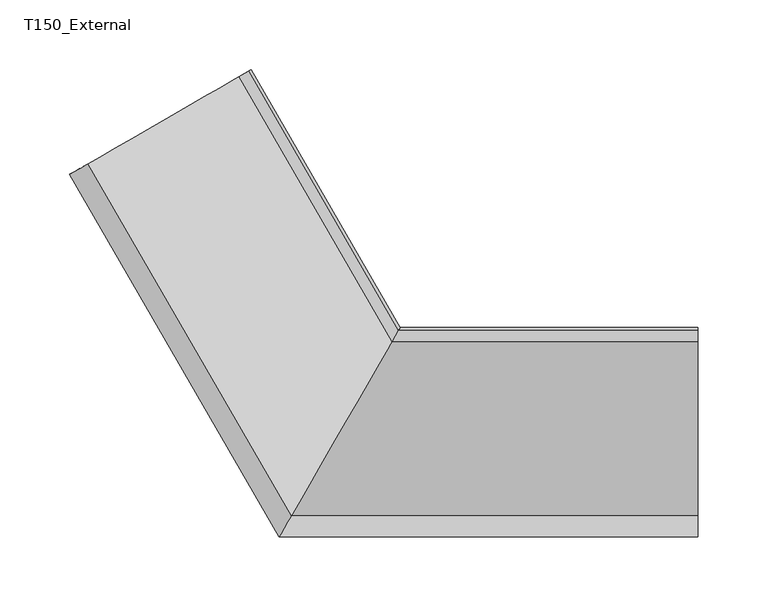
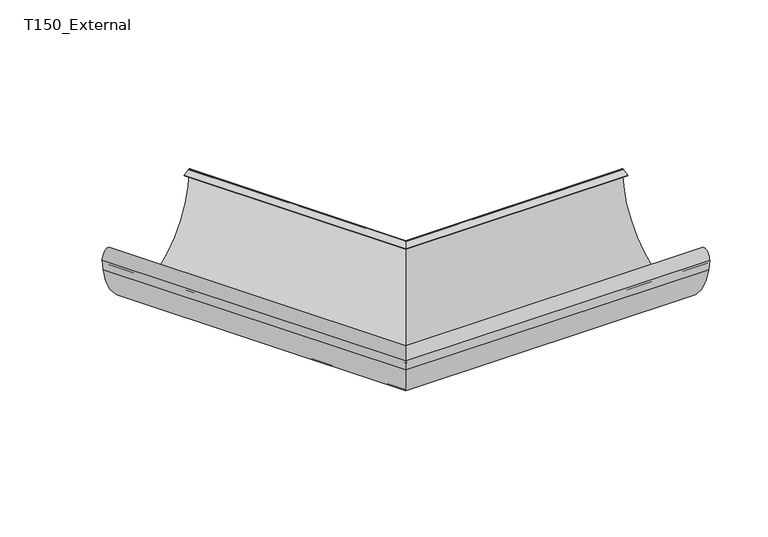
"""IFC4 building model written with IfcOpenShell, lengths in millimetres: proxy geometry, GROVIK_Gutter_Corner_Custom : T150_External."""

import ifcopenshell
import ifcopenshell.guid

model = None  # the IFC model being written
_history = None  # IfcOwnerHistory: only IFC2X3 demands one
_inside = {}  # id of a spatial element -> (the spatial element, [elements in it])
_under = {}  # id of a project, library or spatial element -> (it, [spatial elements below it])
_declared = {}  # id of a project -> (the project, [libraries it declares])
_typed = {}  # id of a type object -> (the type object, [elements of that type])
_made_of = {}  # id of a material, layer set ... -> (it, [elements and type objects made of it])


def new_model(schema):
    """Start an empty IFC model of exactly this schema.

    Asked for "IFC4X3", IfcOpenShell would pick the latest addendum, in which some entities
    have other attributes; the version numbers below select the first issue.
    IFC2X3 requires an IfcOwnerHistory on every rooted entity: one is made here for all.
    """
    global model, _history
    if schema == "IFC4X3":
        model = ifcopenshell.file(schema_version=(4, 3, 0, 0))
    else:
        model = ifcopenshell.file(schema=schema)
    _inside.clear()
    _under.clear()
    _declared.clear()
    _typed.clear()
    _made_of.clear()
    _history = None
    if model.schema == "IFC2X3":
        org = make("IfcOrganization", Name="unknown")
        user = make(
            "IfcPersonAndOrganization",
            ThePerson=make("IfcPerson", FamilyName="unknown"),
            TheOrganization=org,
        )
        app = make(
            "IfcApplication",
            ApplicationDeveloper=org,
            Version="unknown",
            ApplicationFullName="unknown",
            ApplicationIdentifier="unknown",
        )
        _history = make(
            "IfcOwnerHistory",
            OwningUser=user,
            OwningApplication=app,
            ChangeAction="ADDED",
            CreationDate=0,
        )
    return model


def make(cls, **values):
    """One entity of the class cls with the attributes given. An attribute that is None is left unset."""
    return model.create_entity(
        cls, **{name: value for name, value in values.items() if value is not None}
    )


def rooted(cls, **values):
    """An entity with a GlobalId (a new one), such as an element, a storey or a relation."""
    return make(cls, GlobalId=ifcopenshell.guid.new(), OwnerHistory=_history, **values)


def si_unit(unit_type, name, prefix=None):
    """IfcSIUnit, for example si_unit("LENGTHUNIT", "METRE", prefix="MILLI")."""
    return make("IfcSIUnit", UnitType=unit_type, Prefix=prefix, Name=name)


def assignment(units):
    """IfcUnitAssignment: the units of a project."""
    return None if units is None else make("IfcUnitAssignment", Units=units)


def point(xyz):
    """IfcCartesianPoint."""
    return None if xyz is None else make("IfcCartesianPoint", Coordinates=xyz)


def direction(xyz):
    """IfcDirection."""
    return None if xyz is None else make("IfcDirection", DirectionRatios=xyz)


def frame(location, z_axis=None, x_axis=None):
    """IfcAxis2Placement3D, a coordinate frame: its origin and axes. An axis left out is left unset."""
    return make(
        "IfcAxis2Placement3D",
        Location=point(location),
        Axis=direction(z_axis),
        RefDirection=direction(x_axis),
    )


def origin():
    """The frame at (0, 0, 0) with its axes left unset."""
    return frame((0.0, 0.0, 0.0))


def place(relative_to, where):
    """IfcLocalPlacement: puts the frame where relative to a parent placement (None: the world)."""
    return make(
        "IfcLocalPlacement", PlacementRelTo=relative_to, RelativePlacement=where
    )


def context(
    kind, dimensions, precision=None, world=None, true_north=None, identifier=None
):
    """IfcGeometricRepresentationContext, for example the 3D "Model" context."""
    return make(
        "IfcGeometricRepresentationContext",
        ContextIdentifier=identifier,
        ContextType=kind,
        CoordinateSpaceDimension=dimensions,
        Precision=precision,
        WorldCoordinateSystem=world,
        TrueNorth=true_north,
    )


def project(units=None, contexts=None):
    """IfcProject with its units and contexts."""
    return rooted(
        "IfcProject",
        Name="project",
        RepresentationContexts=contexts,
        UnitsInContext=assignment(units),
    )


def spatial(cls, under=None, at=None, **own):
    """A site, building, storey or space (cls), placed at a placement, below another one or the project."""
    s = rooted(cls, ObjectPlacement=at, **own)
    if under is not None:
        _under.setdefault(under.id(), (under, []))[1].append(s)
    return s


def polyline(points):
    """IfcPolyline through the points."""
    return make("IfcPolyline", Points=[point(p) for p in points])


def circle_curve(where, radius):
    """IfcCircle in the frame where."""
    return make("IfcCircle", Position=where, Radius=radius)


def ellipse_curve(where, semi_axis1, semi_axis2):
    """IfcEllipse in the frame where."""
    return make(
        "IfcEllipse", Position=where, SemiAxis1=semi_axis1, SemiAxis2=semi_axis2
    )


def shape(context_of_items, identifier, shape_type, items):
    """IfcShapeRepresentation: the items that make up one representation, for example the "Body"."""
    return make(
        "IfcShapeRepresentation",
        ContextOfItems=context_of_items,
        RepresentationIdentifier=identifier,
        RepresentationType=shape_type,
        Items=items,
    )


def source(mapping_origin, context_of_items, identifier, shape_type, items):
    """IfcRepresentationMap: a shape defined once, which mapped items show again and again."""
    return make(
        "IfcRepresentationMap",
        MappingOrigin=mapping_origin,
        MappedRepresentation=shape(context_of_items, identifier, shape_type, items),
    )


def transform(
    local_origin,
    x_axis=None,
    y_axis=None,
    z_axis=None,
    scale=None,
    scale2=None,
    scale3=None,
    uniform=True,
):
    """IfcCartesianTransformationOperator3D, or its non-uniform kind. x_axis, y_axis, z_axis: its Axis1, 2, 3."""
    if uniform:
        return make(
            "IfcCartesianTransformationOperator3D",
            Axis1=direction(x_axis),
            Axis2=direction(y_axis),
            LocalOrigin=point(local_origin),
            Scale=scale,
            Axis3=direction(z_axis),
        )
    return make(
        "IfcCartesianTransformationOperator3DnonUniform",
        Axis1=direction(x_axis),
        Axis2=direction(y_axis),
        LocalOrigin=point(local_origin),
        Scale=scale,
        Axis3=direction(z_axis),
        Scale2=scale2,
        Scale3=scale3,
    )


def mapped(mapping_source, mapping_target):
    """IfcMappedItem: shows the shape of a source again, moved by a transform."""
    return make(
        "IfcMappedItem", MappingSource=mapping_source, MappingTarget=mapping_target
    )


def made_of(thing, what):
    """Note that an element or type object is made of a material, layer set ...; save() writes the relation."""
    if what is not None:
        _made_of.setdefault(what.id(), (what, []))[1].append(thing)
    return thing


def element(
    cls,
    number,
    at=None,
    inside=None,
    cuts=None,
    type_object=None,
    material=None,
    context=None,
    identifier="Body",
    shape_type=None,
    held_by="IfcProductDefinitionShape",
    body=None,
    shapes=None,
    **own,
):
    """One element of the class cls, such as IfcWall. Its Tag is "e" and its number.

    at: its placement. inside: the storey or other place that contains it. cuts: it is an
    opening in that element (IfcRelVoidsElement). A single representation is given by context,
    identifier, shape_type and body (its items); several are given by shapes. held_by: the class
    of the entity that holds the representations. save() writes the other relations.
    """
    e = rooted(cls, Tag="e%d" % number, ObjectPlacement=at, **own)
    if body is not None:
        shapes = [shape(context, identifier, shape_type, body)]
    if shapes is not None:
        e.Representation = make(held_by, Representations=shapes)
    if inside is not None:
        _inside.setdefault(inside.id(), (inside, []))[1].append(e)
    if cuts is not None:
        rooted(
            "IfcRelVoidsElement", RelatingBuildingElement=cuts, RelatedOpeningElement=e
        )
    if type_object is not None:
        _typed.setdefault(type_object.id(), (type_object, []))[1].append(e)
    return made_of(e, material)


def aggregate(whole, parts):
    """IfcRelAggregates: a whole, such as a stair, and the parts it consists of."""
    return rooted("IfcRelAggregates", RelatingObject=whole, RelatedObjects=parts)


def save(model, path):
    """Write the relations noted so far, then the file.

    IfcRelAggregates (storeys below a building ...), IfcRelContainedInSpatialStructure (elements
    in a storey), IfcRelDefinesByType, IfcRelAssociatesMaterial and IfcRelDeclares: one each for
    every whole, place, type object, material and project.
    """
    for whole, parts in _under.values():
        aggregate(whole, parts)
    for where, things in _inside.values():
        rooted(
            "IfcRelContainedInSpatialStructure",
            RelatedElements=things,
            RelatingStructure=where,
        )
    for kind, things in _typed.values():
        rooted("IfcRelDefinesByType", RelatedObjects=things, RelatingType=kind)
    for what, things in _made_of.values():
        rooted("IfcRelAssociatesMaterial", RelatedObjects=things, RelatingMaterial=what)
    for by, libraries in _declared.values():
        rooted("IfcRelDeclares", RelatingContext=by, RelatedDefinitions=libraries)
    model.write(path)


def plane_surface(at):
    """IfcPlane: the flat surface through the origin of the frame at, square to its z axis."""
    return make("IfcPlane", Position=at)


def cylinder_surface(at, radius):
    """IfcCylindricalSurface: all points at the distance radius from the z axis of the frame at."""
    return make("IfcCylindricalSurface", Position=at, Radius=radius)


def revolved_surface(curve, axis_point, axis_direction):
    """IfcSurfaceOfRevolution: the curve turned about the line through axis_point along axis_direction."""
    return make(
        "IfcSurfaceOfRevolution",
        SweptCurve=make("IfcArbitraryOpenProfileDef", ProfileType="CURVE", Curve=curve),
        AxisPosition=make("IfcAxis1Placement", Location=point(axis_point), Axis=direction(axis_direction)),
    )


def advanced_brep(points, edges, surfaces, faces):
    """IfcAdvancedBrep: a solid bounded by faces that lie on surfaces and meet in shared edges.

    An edge is (start, end): straight between two places in points (the first is 0);
    or (start, end, curve); or (start, end, curve, False) where it runs against its curve.
    A face is (place in surfaces, loops), or (place, loops, False) where it looks against
    its surface's normal. A loop lists edges by number (the first is 1), with a minus sign
    where the edge is run from its end to its start. The first loop is the outer one.
    """
    corners = [point(p) for p in points]
    vertices = [make("IfcVertexPoint", VertexGeometry=c) for c in corners]
    made = []
    for start, end, *more in edges:
        made.append(
            make(
                "IfcEdgeCurve",
                EdgeStart=vertices[start],
                EdgeEnd=vertices[end],
                EdgeGeometry=more[0] if more else make("IfcPolyline", Points=[corners[start], corners[end]]),
                SameSense=more[1] if len(more) > 1 else True,
            )
        )
    hull = []
    for where, loops, *sense in faces:
        bounds = []
        for j, loop in enumerate(loops):
            ring = [make("IfcOrientedEdge", EdgeElement=made[abs(k) - 1], Orientation=k > 0) for k in loop]
            bounds.append(
                make(
                    "IfcFaceOuterBound" if j == 0 else "IfcFaceBound",
                    Bound=make("IfcEdgeLoop", EdgeList=ring),
                    Orientation=True,
                )
            )
        hull.append(make("IfcAdvancedFace", Bounds=bounds, FaceSurface=surfaces[where], SameSense=sense[0] if sense else True))
    return make("IfcAdvancedBrep", Outer=make("IfcClosedShell", CfsFaces=hull))


def t150_external_a60b0f99(model_context):
    return source(origin(), model_context, "Body", "AdvancedBrep", [
        advanced_brep(
        [(-5.7412843, -9.9441961, -1.4092855), (-5.6498039, -9.7857475, -2.295228), (-1.3264664, -2.2975071, -0.9559749), (-0.5796326, -1.0039531, -2.0540157), (-85.1349012, -147.4579744, -16.0293209), (-86.079863, -149.0946963, -5.3813466), (-84.8445675, -146.9551017, -9.9710741), (-85.1212746, -147.4343725, -8.9478528), (-85.4478398, -148.0, -5.4006666), (-85.9602491, -148.8875189, -5.5500325), (-85.6420481, -148.3363785, -9.0063664), (-85.2123114, -147.5920528, -10.6080252), (-86.6025404, -150.0, -5.2006666), (-85.7002667, -148.4372161, -16.2320172), (0.0, 0.0, -1.8), (-1.2702136, -2.2000746, -0.0242687), (-108.6040503, 183.7075838, -0.0242687), (-106.6987298, 184.8076211, -1.8), (-235.2491298, 110.5890131, -16.2320172), (-236.6025404, 109.8076211, -5.2006666), (-234.5171969, 111.0115947, -10.6080252), (-235.1618019, 110.6394319, -9.0063664), (-235.6391035, 110.3638617, -5.5500325), (-234.8704896, 110.8076211, -5.4006666), (-234.3806418, 111.0904349, -8.9478528), (-233.9655811, 111.3300703, -9.9710741), (-235.8185243, 110.260273, -5.3813466), (-234.4010817, 111.0786339, -16.0293209), (-107.5674684, 184.3060547, -2.054027), (-108.6884294, 183.6588676, -0.9559749), (-115.1734357, 179.9147474, -2.295228), (-115.3106562, 179.8355231, -1.4092855)],
        [
            (0, 1),
            (1, 2),
            (2, 3, ellipse_curve(frame((-1.2146571, -2.1038477, -2.0387934), z_axis=(-0.8660254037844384, 0.5000000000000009, 0.0), x_axis=(-0.5000000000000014, -0.8660254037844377, 0.0)), 1.2701706, 1.1)),
            (3, 4, ellipse_curve(frame((-43.2984175, -74.995059, -1.03), z_axis=(-0.8660254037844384, 0.5000000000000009, 0.0), x_axis=(-0.5000000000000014, -0.8660254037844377, 0.0)), 85.4466987, 73.9990118)),
            (4, 5),
            (5, 6, ellipse_curve(frame((-82.2724134, -142.5, -5.1006666), z_axis=(-0.8660254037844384, 0.5000000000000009, 0.0), x_axis=(-0.5000000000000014, -0.8660254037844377, 0.0)), 7.6217933, 6.6006666)),
            (6, 7, ellipse_curve(frame((-83.9553938, -145.4150076, -8.6258487), z_axis=(-0.8660254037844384, 0.5000000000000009, 0.0), x_axis=(-0.5000000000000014, -0.8660254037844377, 0.0)), 2.3612204, 2.0448768)),
            (7, 8),
            (8, 9),
            (9, 10),
            (10, 11, ellipse_curve(frame((-83.8003189, -145.1464101, -8.4977001), z_axis=(0.8660254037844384, -0.5000000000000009, 0.0), x_axis=(0.5000000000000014, 0.8660254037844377, 0.0)), 3.7299938, 3.2302694)),
            (11, 12, ellipse_curve(frame((-82.2724134, -142.5, -5.1006666), z_axis=(0.8660254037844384, -0.5000000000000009, 0.0), x_axis=(0.5000000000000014, 0.8660254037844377, 0.0)), 8.6610238, 7.5006666)),
            (12, 13),
            (13, 14, ellipse_curve(frame((-43.2984175, -74.995059, -1.03), z_axis=(0.8660254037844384, -0.5000000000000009, 0.0), x_axis=(0.5000000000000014, 0.8660254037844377, 0.0)), 86.6013993, 74.9990118)),
            (14, 15, ellipse_curve(frame((-1.0954451, -1.8973666, -1.9), z_axis=(0.8660254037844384, -0.5000000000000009, 0.0), x_axis=(0.5000000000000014, 0.8660254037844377, 0.0)), 2.193931, 1.9)),
            (15, 0),
            (16, 17, circle_curve(frame((-108.3418975, 183.8589378, -1.9), z_axis=(-0.49999999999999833, 0.8660254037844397, 0.0), x_axis=(-0.8660254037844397, -0.49999999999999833, 0.0)), 1.9)),
            (17, 18, circle_curve(frame((-171.646356, 147.3100917, -1.03), z_axis=(-0.49999999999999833, 0.8660254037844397, 0.0), x_axis=(0.8660254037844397, 0.49999999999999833, 0.0)), 74.9990118)),
            (18, 19),
            (19, 20, circle_curve(frame((-230.1073499, 113.5576211, -5.1006666), z_axis=(-0.49999999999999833, 0.8660254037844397, 0.0), x_axis=(-0.8660254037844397, -0.49999999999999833, 0.0)), 7.5006666)),
            (20, 21, circle_curve(frame((-232.3992082, 112.2344161, -8.4977001), z_axis=(-0.49999999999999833, 0.8660254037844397, 0.0), x_axis=(-0.8660254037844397, -0.49999999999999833, 0.0)), 3.2302694)),
            (21, 22),
            (22, 23),
            (23, 24),
            (24, 25, circle_curve(frame((-232.6318205, 112.1001173, -8.6258487), z_axis=(0.49999999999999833, -0.8660254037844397, 0.0), x_axis=(-0.8660254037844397, -0.49999999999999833, 0.0)), 2.0448768)),
            (25, 26, circle_curve(frame((-230.1073499, 113.5576211, -5.1006666), z_axis=(0.49999999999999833, -0.8660254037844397, 0.0), x_axis=(-0.8660254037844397, -0.49999999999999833, 0.0)), 6.6006666)),
            (26, 27),
            (27, 28, circle_curve(frame((-171.646356, 147.3100917, -1.03), z_axis=(0.49999999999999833, -0.8660254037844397, 0.0), x_axis=(0.8660254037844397, 0.49999999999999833, 0.0)), 73.9990118)),
            (28, 29, circle_curve(frame((-108.5207154, 183.7556973, -2.0387934), z_axis=(0.49999999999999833, -0.8660254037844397, 0.0), x_axis=(-0.8660254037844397, -0.49999999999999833, 0.0)), 1.1)),
            (29, 30),
            (30, 31),
            (31, 16),
            (31, 0),
            (15, 16),
            (30, 1),
            (29, 2),
            (28, 3),
            (27, 4),
            (26, 5),
            (25, 6),
            (24, 7),
            (23, 8),
            (22, 9),
            (21, 10),
            (20, 11),
            (19, 12),
            (18, 13),
            (17, 14),
        ],
        [
            plane_surface(frame((-115.4700538, -200.0, 250.0), z_axis=(0.8660254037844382, -0.5000000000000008, 0.0), x_axis=(0.0, 0.0, -1.0))),
            plane_surface(frame((-106.6987298, 184.8076211, 0.0), z_axis=(-0.49999999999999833, 0.8660254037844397, 0.0), x_axis=(0.0, 0.0, 1.0))),
            plane_surface(frame((-108.6040503, 183.7075838, -0.0242687), z_axis=(-0.15246723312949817, -0.0880269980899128, 0.984380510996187), x_axis=(0.49999999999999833, -0.8660254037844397, 0.0))),
            plane_surface(frame((-115.3106562, 179.8355231, -1.4092855), z_axis=(-0.8524985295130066, -0.49219025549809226, -0.17605399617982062), x_axis=(0.49999999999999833, -0.8660254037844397, 0.0))),
            plane_surface(frame((-115.1734357, 179.9147474, -2.295228), z_axis=(0.15246723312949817, 0.0880269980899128, -0.984380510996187), x_axis=(0.49999999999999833, -0.8660254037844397, 0.0))),
            revolved_surface(polyline([(-1.849742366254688, -3.203847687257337, -2.0387934), (-109.47334335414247, 183.20569731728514, -2.0387934)]), (-108.5207154, 183.7556973, -2.0387934), (0.49999999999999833, -0.8660254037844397, 0.0)),
            revolved_surface(polyline([(42.14828132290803, -74.99505892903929, -1.03), (-107.56133192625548, 184.30959759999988, -1.03)]), (-171.646356, 147.3100917, -1.03), (0.49999999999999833, -0.8660254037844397, 0.0)),
            plane_surface(frame((-234.4010817, 111.0786339, -16.0293209), z_axis=(0.8559722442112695, 0.49419580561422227, 0.1519276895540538), x_axis=(0.49999999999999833, -0.8660254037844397, 0.0))),
            revolved_surface(polyline([(-86.0833100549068, -149.10066662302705, -5.1006666), (-235.82369486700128, 110.25728781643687, -5.1006666)]), (-230.1073499, 113.5576211, -5.1006666), (0.49999999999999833, -0.8660254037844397, 0.0)),
            revolved_surface(polyline([(-85.13600397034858, -147.45988443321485, -8.6258487), (-234.40273577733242, 111.07767893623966, -8.6258487)]), (-232.6318205, 112.1001173, -8.6258487), (0.49999999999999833, -0.8660254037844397, 0.0)),
            plane_surface(frame((-234.3806418, 111.0904349, -8.9478528), z_axis=(0.8552208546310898, 0.4937619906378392, 0.15746868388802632), x_axis=(0.49999999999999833, -0.8660254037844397, 0.0))),
            plane_surface(frame((-234.8704896, 110.8076211, -5.4006666), z_axis=(-0.1437273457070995, -0.08298102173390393, 0.9861321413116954), x_axis=(0.49999999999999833, -0.8660254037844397, 0.0))),
            plane_surface(frame((-235.6391035, 110.3638617, -5.5500325), z_axis=(-0.8552208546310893, -0.49376199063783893, -0.1574686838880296), x_axis=(0.49999999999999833, -0.8660254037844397, 0.0))),
            cylinder_surface(frame((-232.3992082, 112.2344161, -8.4977001), z_axis=(-0.49999999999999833, 0.8660254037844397, 0.0), x_axis=(-0.8660254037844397, -0.49999999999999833, 0.0)), 3.2302694),
            cylinder_surface(frame((-230.1073499, 113.5576211, -5.1006666), z_axis=(-0.49999999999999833, 0.8660254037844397, 0.0), x_axis=(-0.8660254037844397, -0.49999999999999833, 0.0)), 7.5006666),
            plane_surface(frame((-236.6025404, 109.8076211, -5.2006666), z_axis=(-0.8574636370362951, -0.4950568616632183, -0.14026694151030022), x_axis=(0.49999999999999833, -0.8660254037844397, 0.0))),
            cylinder_surface(frame((-171.646356, 147.3100917, -1.03), z_axis=(-0.49999999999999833, 0.8660254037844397, 0.0), x_axis=(0.8660254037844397, 0.49999999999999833, 0.0)), 74.9990118),
            cylinder_surface(frame((-108.3418975, 183.8589378, -1.9), z_axis=(-0.49999999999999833, 0.8660254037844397, 0.0), x_axis=(-0.8660254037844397, -0.49999999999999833, 0.0)), 1.9),
        ],
        [
            (0, [[1, 2, 3, 4, 5, 6, 7, 8, 9, 10, 11, 12, 13, 14, 15, 16]]),
            (1, [[17, 18, 19, 20, 21, 22, 23, 24, 25, 26, 27, 28, 29, 30, 31, 32]]),
            (2, [[33, -16, 34, -32]]),
            (3, [[35, -1, -33, -31]]),
            (4, [[36, -2, -35, -30]]),
            (5, [[37, -3, -36, -29]]),
            (6, [[38, -4, -37, -28]]),
            (7, [[39, -5, -38, -27]]),
            (8, [[40, -6, -39, -26]]),
            (9, [[41, -7, -40, -25]]),
            (10, [[42, -8, -41, -24]]),
            (11, [[43, -9, -42, -23]]),
            (12, [[44, -10, -43, -22]]),
            (13, [[45, -11, -44, -21]]),
            (14, [[46, -12, -45, -20]]),
            (15, [[47, -13, -46, -19]]),
            (16, [[48, -14, -47, -18]]),
            (17, [[-34, -15, -48, -17]]),
        ],
    ),
        advanced_brep(
        [(-5.7412843, -9.9441961, -1.4092855), (-1.2702136, -2.2000746, -0.0242687), (0.0, 0.0, -1.8), (-85.7002667, -148.4372161, -16.2320172), (-86.6025404, -150.0, -5.2006666), (-85.2123114, -147.5920528, -10.6080252), (-85.6420481, -148.3363785, -9.0063664), (-85.9602491, -148.8875189, -5.5500325), (-85.4478398, -148.0, -5.4006666), (-85.1212746, -147.4343725, -8.9478528), (-84.8445675, -146.9551017, -9.9710741), (-86.079863, -149.0946963, -5.3813466), (-85.1349012, -147.4579744, -16.0293209), (-0.5791591, -1.003133, -2.054027), (-1.3264664, -2.2975071, -0.9559749), (-5.6498039, -9.7857475, -2.295228), (213.3974596, -2.2000746, -0.0242687), (213.3974596, -9.9441961, -1.4092855), (213.3974596, -9.7857475, -2.295228), (213.3974596, -2.2975071, -0.9559749), (213.3974596, -1.0039531, -2.0540157), (213.3974596, -147.4579744, -16.0293209), (213.3974596, -149.0946963, -5.3813466), (213.3974596, -146.9551017, -9.9710741), (213.3974596, -147.4343725, -8.9478528), (213.3974596, -148.0, -5.4006666), (213.3974596, -148.8875189, -5.5500325), (213.3974596, -148.3363785, -9.0063664), (213.3974596, -147.5920528, -10.6080252), (213.3974596, -150.0, -5.2006666), (213.3974596, -148.4372161, -16.2320172), (213.3974596, 0.0, -1.8)],
        [
            (0, 1),
            (1, 2, ellipse_curve(frame((-1.0954451, -1.8973666, -1.9), z_axis=(-0.8660254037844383, 0.5000000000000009, 0.0), x_axis=(0.5000000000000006, 0.8660254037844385, 0.0)), 2.193931, 1.9)),
            (2, 3, ellipse_curve(frame((-43.2984175, -74.995059, -1.03), z_axis=(-0.8660254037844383, 0.5000000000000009, 0.0), x_axis=(0.5000000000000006, 0.8660254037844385, 0.0)), 86.6013993, 74.9990118)),
            (3, 4),
            (4, 5, ellipse_curve(frame((-82.2724134, -142.5, -5.1006666), z_axis=(-0.8660254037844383, 0.5000000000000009, 0.0), x_axis=(0.5000000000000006, 0.8660254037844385, 0.0)), 8.6610238, 7.5006666)),
            (5, 6, ellipse_curve(frame((-83.8003189, -145.1464101, -8.4977001), z_axis=(-0.8660254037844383, 0.5000000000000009, 0.0), x_axis=(0.5000000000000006, 0.8660254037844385, 0.0)), 3.7299938, 3.2302694)),
            (6, 7),
            (7, 8),
            (8, 9),
            (9, 10, ellipse_curve(frame((-83.9553938, -145.4150076, -8.6258487), z_axis=(0.8660254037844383, -0.5000000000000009, 0.0), x_axis=(-0.5000000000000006, -0.8660254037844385, 0.0)), 2.3612204, 2.0448768)),
            (10, 11, ellipse_curve(frame((-82.2724134, -142.5, -5.1006666), z_axis=(0.8660254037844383, -0.5000000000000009, 0.0), x_axis=(-0.5000000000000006, -0.8660254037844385, 0.0)), 7.6217933, 6.6006666)),
            (11, 12),
            (12, 13, ellipse_curve(frame((-43.2984175, -74.995059, -1.03), z_axis=(0.8660254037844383, -0.5000000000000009, 0.0), x_axis=(-0.5000000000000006, -0.8660254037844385, 0.0)), 85.4466987, 73.9990118)),
            (13, 14, ellipse_curve(frame((-1.2146571, -2.1038477, -2.0387934), z_axis=(0.8660254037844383, -0.5000000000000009, 0.0), x_axis=(-0.5000000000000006, -0.8660254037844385, 0.0)), 1.2701706, 1.1)),
            (14, 15),
            (15, 0),
            (16, 17),
            (17, 18),
            (18, 19),
            (19, 20, circle_curve(frame((213.3974596, -2.1038477, -2.0387934), z_axis=(-1.0, 0.0, 0.0), x_axis=(0.0, -1.0, 0.0)), 1.1)),
            (20, 21, circle_curve(frame((213.3974596, -74.995059, -1.03), z_axis=(-1.0, 0.0, 0.0), x_axis=(0.0, 1.0, 0.0)), 73.9990118)),
            (21, 22),
            (22, 23, circle_curve(frame((213.3974596, -142.5, -5.1006666), z_axis=(-1.0, 0.0, 0.0), x_axis=(0.0, -1.0, 0.0)), 6.6006666)),
            (23, 24, circle_curve(frame((213.3974596, -145.4150076, -8.6258487), z_axis=(-1.0, 0.0, 0.0), x_axis=(0.0, -1.0, 0.0)), 2.0448768)),
            (24, 25),
            (25, 26),
            (26, 27),
            (27, 28, circle_curve(frame((213.3974596, -145.1464101, -8.4977001), z_axis=(1.0, 0.0, 0.0), x_axis=(0.0, -1.0, 0.0)), 3.2302694)),
            (28, 29, circle_curve(frame((213.3974596, -142.5, -5.1006666), z_axis=(1.0, 0.0, 0.0), x_axis=(0.0, -1.0, 0.0)), 7.5006666)),
            (29, 30),
            (30, 31, circle_curve(frame((213.3974596, -74.995059, -1.03), z_axis=(1.0, 0.0, 0.0), x_axis=(0.0, 1.0, 0.0)), 74.9990118)),
            (31, 16, circle_curve(frame((213.3974596, -1.8973666, -1.9), z_axis=(1.0, 0.0, 0.0), x_axis=(0.0, -1.0, 0.0)), 1.9)),
            (16, 1),
            (0, 17),
            (15, 18),
            (14, 19),
            (13, 20),
            (12, 21),
            (11, 22),
            (10, 23),
            (9, 24),
            (8, 25),
            (7, 26),
            (6, 27),
            (5, 28),
            (4, 29),
            (3, 30),
            (2, 31),
        ],
        [
            plane_surface(frame((-115.4700538, -200.0, 250.0), z_axis=(-0.8660254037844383, 0.5000000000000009, 0.0), x_axis=(0.0, 0.0, -1.0))),
            plane_surface(frame((213.3974596, 0.0, 0.0), z_axis=(1.0, 0.0, 0.0), x_axis=(0.0, 0.0, 1.0))),
            plane_surface(frame((213.3974596, -2.2000746, -0.0242687), z_axis=(0.0, -0.17605399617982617, 0.9843805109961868), x_axis=(-1.0, 0.0, 0.0))),
            plane_surface(frame((213.3974596, -9.9441961, -1.4092855), z_axis=(0.0, -0.9843805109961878, -0.1760539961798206), x_axis=(-1.0, 0.0, 0.0))),
            plane_surface(frame((213.3974596, -9.7857475, -2.295228), z_axis=(0.0, 0.17605399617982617, -0.9843805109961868), x_axis=(-1.0, 0.0, 0.0))),
            revolved_surface(polyline([(-1.849742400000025, -3.2038477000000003, -2.0387934), (213.3974596, -3.2038477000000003, -2.0387934)]), (213.3974596, -2.1038477, -2.0387934), (-1.0, 0.0, 0.0)),
            revolved_surface(polyline([(-86.02176685, -0.9960471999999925, -1.03), (213.3974596, -0.9960471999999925, -1.03)]), (213.3974596, -74.995059, -1.03), (-1.0, 0.0, 0.0)),
            plane_surface(frame((213.3974596, -147.4579744, -16.0293209), z_axis=(0.0, 0.9883916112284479, 0.15192768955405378), x_axis=(-1.0, 0.0, 0.0))),
            revolved_surface(polyline([(-86.08331005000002, -149.1006666, -5.1006666), (213.3974596, -149.1006666, -5.1006666)]), (213.3974596, -142.5, -5.1006666), (-1.0, 0.0, 0.0)),
            revolved_surface(polyline([(-85.13600399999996, -147.4598844, -8.6258487), (213.3974596, -147.4598844, -8.6258487)]), (213.3974596, -145.4150076, -8.6258487), (-1.0, 0.0, 0.0)),
            plane_surface(frame((213.3974596, -147.4343725, -8.9478528), z_axis=(0.0, 0.9875239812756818, 0.1574686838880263), x_axis=(-1.0, 0.0, 0.0))),
            plane_surface(frame((213.3974596, -148.0, -5.4006666), z_axis=(0.0, -0.1659620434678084, 0.9861321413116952), x_axis=(-1.0, 0.0, 0.0))),
            plane_surface(frame((213.3974596, -148.8875189, -5.5500325), z_axis=(0.0, -0.9875239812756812, -0.15746868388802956), x_axis=(-1.0, 0.0, 0.0))),
            cylinder_surface(frame((213.3974596, -145.1464101, -8.4977001), z_axis=(1.0, 0.0, 0.0), x_axis=(0.0, -1.0, 0.0)), 3.2302694),
            cylinder_surface(frame((213.3974596, -142.5, -5.1006666), z_axis=(1.0, 0.0, 0.0), x_axis=(0.0, -1.0, 0.0)), 7.5006666),
            plane_surface(frame((213.3974596, -150.0, -5.2006666), z_axis=(0.0, -0.9901137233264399, -0.14026694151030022), x_axis=(-1.0, 0.0, 0.0))),
            cylinder_surface(frame((213.3974596, -74.995059, -1.03), z_axis=(1.0, 0.0, 0.0), x_axis=(0.0, 1.0, 0.0)), 74.9990118),
            cylinder_surface(frame((213.3974596, -1.8973666, -1.9), z_axis=(1.0, 0.0, 0.0), x_axis=(0.0, -1.0, 0.0)), 1.9),
        ],
        [
            (0, [[1, 2, 3, 4, 5, 6, 7, 8, 9, 10, 11, 12, 13, 14, 15, 16]]),
            (1, [[17, 18, 19, 20, 21, 22, 23, 24, 25, 26, 27, 28, 29, 30, 31, 32]]),
            (2, [[-17, 33, -1, 34]]),
            (3, [[-18, -34, -16, 35]]),
            (4, [[-19, -35, -15, 36]]),
            (5, [[-20, -36, -14, 37]]),
            (6, [[-21, -37, -13, 38]]),
            (7, [[-22, -38, -12, 39]]),
            (8, [[-23, -39, -11, 40]]),
            (9, [[-24, -40, -10, 41]]),
            (10, [[-25, -41, -9, 42]]),
            (11, [[-26, -42, -8, 43]]),
            (12, [[-27, -43, -7, 44]]),
            (13, [[-28, -44, -6, 45]]),
            (14, [[-29, -45, -5, 46]]),
            (15, [[-30, -46, -4, 47]]),
            (16, [[-31, -47, -3, 48]]),
            (17, [[-32, -48, -2, -33]]),
        ],
    ),
    ])


if __name__ == "__main__":
    model = new_model("IFC4")
    model_context = context("Model", 3, world=origin())
    ifc_project = project(units=[si_unit("LENGTHUNIT", "METRE", prefix="MILLI")], contexts=[model_context])
    site = spatial("IfcSite", under=ifc_project)
    building = spatial("IfcBuilding", under=site)
    placement = place(None, origin())
    t150_external_shape = t150_external_a60b0f99(model_context)
    element("IfcBuildingElementProxy", 1, Name="GROVIK_Gutter_Corner_Custom : T150_External", ObjectType="GROVIK_Gutter_Corner_Custom : T150_External", at=placement, inside=building, context=model_context, shape_type="MappedRepresentation", body=[
        mapped(t150_external_shape, transform((0.0, 0.0, 0.0), x_axis=(1.0, 0.0, 0.0), y_axis=(0.0, 1.0, 0.0), z_axis=(0.0, 0.0, 1.0))),
    ])
    save(model, "model.ifc")
